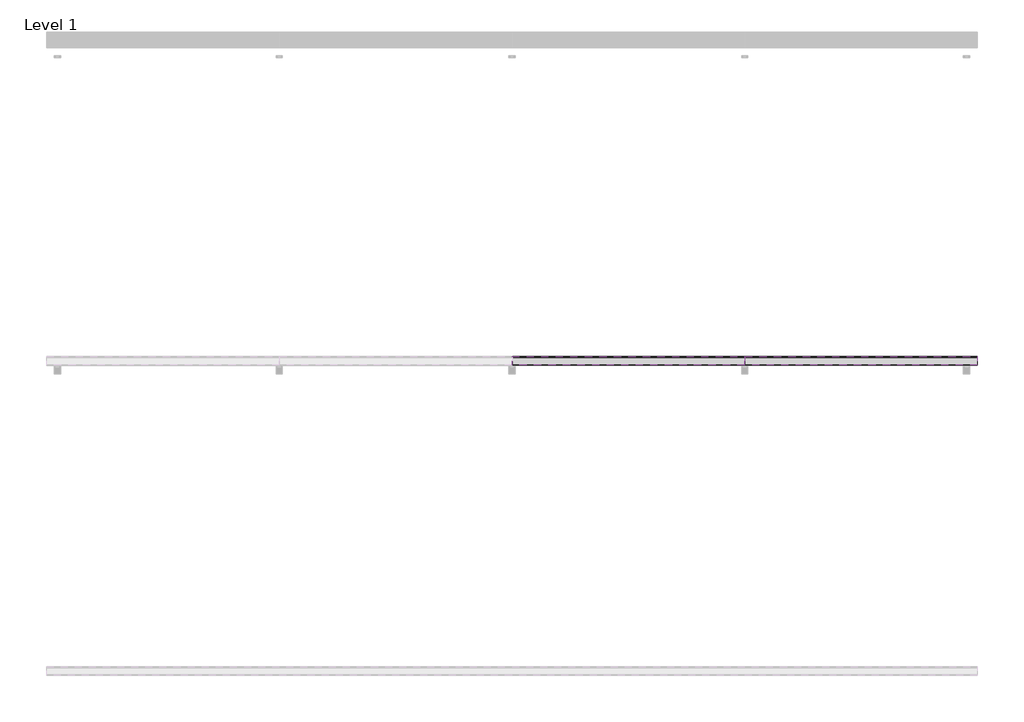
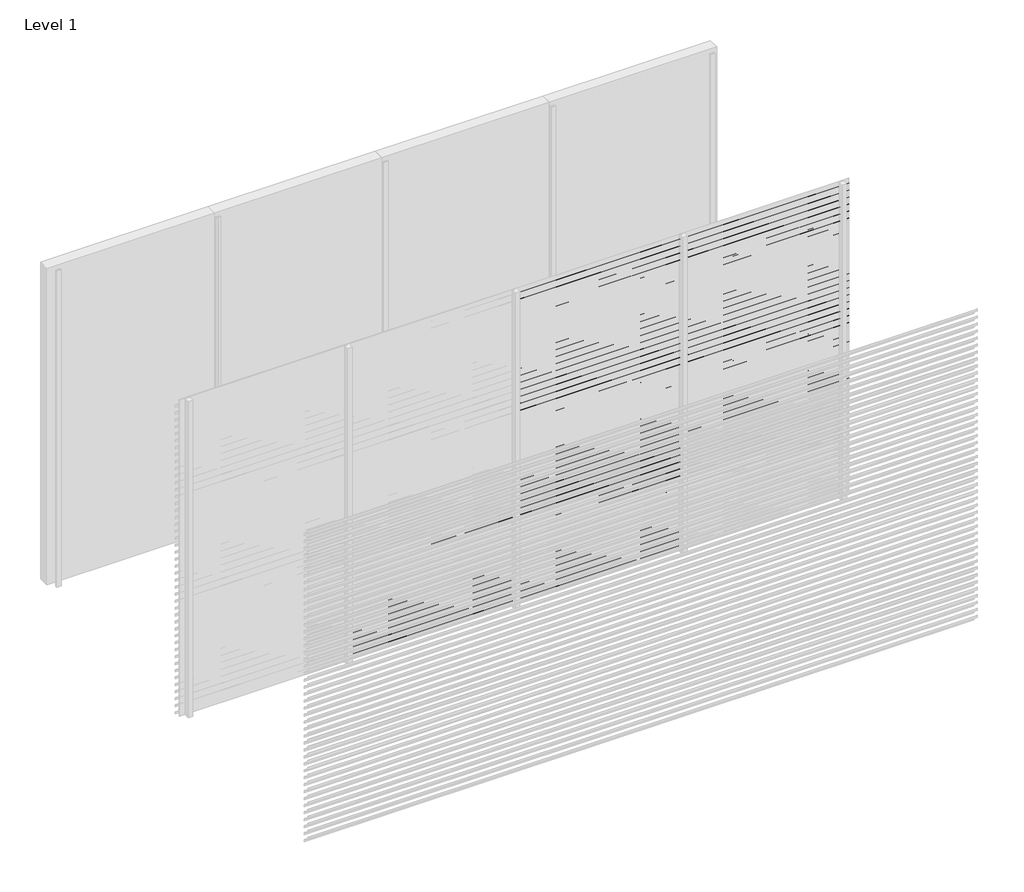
# One storey, part 12 of 25: 87 proxies.
"""IFC4 building model written with IfcOpenShell, lengths in millimetres."""

from ifc_helpers import new_model, si_unit, frame, origin, place, context, project, spatial, polyline, outline, extrude, element, save

model = new_model("IFC4")

# Units and contexts
model_context = context("Model", 3, world=origin())
ifc_project = project(units=[si_unit("LENGTHUNIT", "METRE", prefix="MILLI")], contexts=[model_context])

# Site, building, storey
site = spatial("IfcSite", under=ifc_project)
building = spatial("IfcBuilding", under=site)
storey = spatial("IfcBuildingStorey", under=building, Name="Level 1", Elevation=0.0)

# Proxies
placement = place(None, origin())
element("IfcBuildingElementProxy", 1, Name="Wall Sweeps", at=placement, inside=storey, context=model_context, shape_type="SweptSolid", body=[
    extrude(outline(polyline([(-29943.0, 801.5), (-29943.0, 781.5), (-29944.25, 782.2216933), (-29944.25, 800.7872415), (-29998.0, 838.3158044), (-29998.0, 858.0), (-29996.75, 858.0), (-29996.75, 839.0285629), (-29943.0, 801.5)])), frame((1500.0, 0.0, 0.0), z_axis=(1.0, 0.0, 0.0), x_axis=(0.0, 1.0, 0.0)), (0.0, 0.0, 1.0), 1500.0),
])
element("IfcBuildingElementProxy", 2, Name="Wall Sweeps", at=placement, inside=storey, context=model_context, shape_type="SweptSolid", body=[
    extrude(outline(polyline([(-29943.0, 735.5), (-29943.0, 715.5), (-29944.25, 716.2216933), (-29944.25, 734.7872415), (-29998.0, 772.3158044), (-29998.0, 792.0), (-29996.75, 792.0), (-29996.75, 773.0285629), (-29943.0, 735.5)])), frame((1500.0, 0.0, 0.0), z_axis=(1.0, 0.0, 0.0), x_axis=(0.0, 1.0, 0.0)), (0.0, 0.0, 1.0), 1500.0),
])
element("IfcBuildingElementProxy", 3, Name="Wall Sweeps", at=placement, inside=storey, context=model_context, shape_type="SweptSolid", body=[
    extrude(outline(polyline([(-29943.0, 669.5), (-29943.0, 649.5), (-29944.25, 650.2216933), (-29944.25, 668.7872415), (-29998.0, 706.3158044), (-29998.0, 726.0), (-29996.75, 726.0), (-29996.75, 707.0285629), (-29943.0, 669.5)])), frame((1500.0, 0.0, 0.0), z_axis=(1.0, 0.0, 0.0), x_axis=(0.0, 1.0, 0.0)), (0.0, 0.0, 1.0), 1500.0),
])
element("IfcBuildingElementProxy", 4, Name="Wall Sweeps", at=placement, inside=storey, context=model_context, shape_type="SweptSolid", body=[
    extrude(outline(polyline([(-29943.0, 603.5), (-29943.0, 583.5), (-29944.25, 584.2216933), (-29944.25, 602.7872415), (-29998.0, 640.3158044), (-29998.0, 660.0), (-29996.75, 660.0), (-29996.75, 641.0285629), (-29943.0, 603.5)])), frame((1500.0, 0.0, 0.0), z_axis=(1.0, 0.0, 0.0), x_axis=(0.0, 1.0, 0.0)), (0.0, 0.0, 1.0), 1500.0),
])
element("IfcBuildingElementProxy", 5, Name="Wall Sweeps", at=placement, inside=storey, context=model_context, shape_type="SweptSolid", body=[
    extrude(outline(polyline([(-29943.0, 537.5), (-29943.0, 517.5), (-29944.25, 518.2216933), (-29944.25, 536.7872415), (-29998.0, 574.3158044), (-29998.0, 594.0), (-29996.75, 594.0), (-29996.75, 575.0285629), (-29943.0, 537.5)])), frame((1500.0, 0.0, 0.0), z_axis=(1.0, 0.0, 0.0), x_axis=(0.0, 1.0, 0.0)), (0.0, 0.0, 1.0), 1500.0),
])
element("IfcBuildingElementProxy", 6, Name="Wall Sweeps", at=placement, inside=storey, context=model_context, shape_type="SweptSolid", body=[
    extrude(outline(polyline([(-29943.0, 471.5), (-29943.0, 451.5), (-29944.25, 452.2216933), (-29944.25, 470.7872415), (-29998.0, 508.3158044), (-29998.0, 528.0), (-29996.75, 528.0), (-29996.75, 509.0285629), (-29943.0, 471.5)])), frame((1500.0, 0.0, 0.0), z_axis=(1.0, 0.0, 0.0), x_axis=(0.0, 1.0, 0.0)), (0.0, 0.0, 1.0), 1500.0),
])
element("IfcBuildingElementProxy", 7, Name="Wall Sweeps", at=placement, inside=storey, context=model_context, shape_type="SweptSolid", body=[
    extrude(outline(polyline([(-29943.0, 405.5), (-29943.0, 385.5), (-29944.25, 386.2216933), (-29944.25, 404.7872415), (-29998.0, 442.3158044), (-29998.0, 462.0), (-29996.75, 462.0), (-29996.75, 443.0285629), (-29943.0, 405.5)])), frame((1500.0, 0.0, 0.0), z_axis=(1.0, 0.0, 0.0), x_axis=(0.0, 1.0, 0.0)), (0.0, 0.0, 1.0), 1500.0),
])
element("IfcBuildingElementProxy", 8, Name="Wall Sweeps", at=placement, inside=storey, context=model_context, shape_type="SweptSolid", body=[
    extrude(outline(polyline([(-29943.0, 339.5), (-29943.0, 319.5), (-29944.25, 320.2216933), (-29944.25, 338.7872415), (-29998.0, 376.3158044), (-29998.0, 396.0), (-29996.75, 396.0), (-29996.75, 377.0285629), (-29943.0, 339.5)])), frame((1500.0, 0.0, 0.0), z_axis=(1.0, 0.0, 0.0), x_axis=(0.0, 1.0, 0.0)), (0.0, 0.0, 1.0), 1500.0),
])
element("IfcBuildingElementProxy", 9, Name="Wall Sweeps", at=placement, inside=storey, context=model_context, shape_type="SweptSolid", body=[
    extrude(outline(polyline([(-29943.0, 273.5), (-29943.0, 253.5), (-29944.25, 254.2216933), (-29944.25, 272.7872415), (-29998.0, 310.3158044), (-29998.0, 330.0), (-29996.75, 330.0), (-29996.75, 311.0285629), (-29943.0, 273.5)])), frame((1500.0, 0.0, 0.0), z_axis=(1.0, 0.0, 0.0), x_axis=(0.0, 1.0, 0.0)), (0.0, 0.0, 1.0), 1500.0),
])
element("IfcBuildingElementProxy", 10, Name="Wall Sweeps", at=placement, inside=storey, context=model_context, shape_type="SweptSolid", body=[
    extrude(outline(polyline([(-29943.0, 207.5), (-29943.0, 187.5), (-29944.25, 188.2216933), (-29944.25, 206.7872415), (-29998.0, 244.3158044), (-29998.0, 264.0), (-29996.75, 264.0), (-29996.75, 245.0285629), (-29943.0, 207.5)])), frame((1500.0, 0.0, 0.0), z_axis=(1.0, 0.0, 0.0), x_axis=(0.0, 1.0, 0.0)), (0.0, 0.0, 1.0), 1500.0),
])
element("IfcBuildingElementProxy", 11, Name="Wall Sweeps", at=placement, inside=storey, context=model_context, shape_type="SweptSolid", body=[
    extrude(outline(polyline([(-29943.0, 141.5), (-29943.0, 121.5), (-29944.25, 122.2216933), (-29944.25, 140.7872415), (-29998.0, 178.3158044), (-29998.0, 198.0), (-29996.75, 198.0), (-29996.75, 179.0285629), (-29943.0, 141.5)])), frame((1500.0, 0.0, 0.0), z_axis=(1.0, 0.0, 0.0), x_axis=(0.0, 1.0, 0.0)), (0.0, 0.0, 1.0), 1500.0),
])
element("IfcBuildingElementProxy", 12, Name="Wall Sweeps", at=placement, inside=storey, context=model_context, shape_type="SweptSolid", body=[
    extrude(outline(polyline([(-29943.0, 75.5), (-29943.0, 55.5), (-29944.25, 56.2216933), (-29944.25, 74.7872415), (-29998.0, 112.3158044), (-29998.0, 132.0), (-29996.75, 132.0), (-29996.75, 113.0285629), (-29943.0, 75.5)])), frame((1500.0, 0.0, 0.0), z_axis=(1.0, 0.0, 0.0), x_axis=(0.0, 1.0, 0.0)), (0.0, 0.0, 1.0), 1500.0),
])
element("IfcBuildingElementProxy", 13, Name="Wall Sweeps", at=placement, inside=storey, context=model_context, shape_type="SweptSolid", body=[
    extrude(outline(polyline([(-29943.0, 9.5), (-29943.0, -10.5), (-29944.25, -9.7783067), (-29944.25, 8.7872415), (-29998.0, 46.3158044), (-29998.0, 66.0), (-29996.75, 66.0), (-29996.75, 47.0285629), (-29943.0, 9.5)])), frame((1500.0, 0.0, 0.0), z_axis=(1.0, 0.0, 0.0), x_axis=(0.0, 1.0, 0.0)), (0.0, 0.0, 1.0), 1500.0),
])
element("IfcBuildingElementProxy", 14, Name="Wall Sweeps", at=placement, inside=storey, context=model_context, shape_type="SweptSolid", body=[
    extrude(outline(polyline([(-29943.0, 2913.5), (-29943.0, 2893.5), (-29944.25, 2894.2216933), (-29944.25, 2912.7872415), (-29998.0, 2950.3158044), (-29998.0, 2970.0), (-29996.75, 2970.0), (-29996.75, 2951.0285629), (-29943.0, 2913.5)])), frame((3000.0, 0.0, 0.0), z_axis=(1.0, 0.0, 0.0), x_axis=(0.0, 1.0, 0.0)), (0.0, 0.0, 1.0), 1500.0),
])
element("IfcBuildingElementProxy", 15, Name="Wall Sweeps", at=placement, inside=storey, context=model_context, shape_type="SweptSolid", body=[
    extrude(outline(polyline([(-29943.0, 2847.5), (-29943.0, 2827.5), (-29944.25, 2828.2216933), (-29944.25, 2846.7872415), (-29998.0, 2884.3158044), (-29998.0, 2904.0), (-29996.75, 2904.0), (-29996.75, 2885.0285629), (-29943.0, 2847.5)])), frame((3000.0, 0.0, 0.0), z_axis=(1.0, 0.0, 0.0), x_axis=(0.0, 1.0, 0.0)), (0.0, 0.0, 1.0), 1500.0),
])
element("IfcBuildingElementProxy", 16, Name="Wall Sweeps", at=placement, inside=storey, context=model_context, shape_type="SweptSolid", body=[
    extrude(outline(polyline([(-29943.0, 2781.5), (-29943.0, 2761.5), (-29944.25, 2762.2216933), (-29944.25, 2780.7872415), (-29998.0, 2818.3158044), (-29998.0, 2838.0), (-29996.75, 2838.0), (-29996.75, 2819.0285629), (-29943.0, 2781.5)])), frame((3000.0, 0.0, 0.0), z_axis=(1.0, 0.0, 0.0), x_axis=(0.0, 1.0, 0.0)), (0.0, 0.0, 1.0), 1500.0),
])
element("IfcBuildingElementProxy", 17, Name="Wall Sweeps", at=placement, inside=storey, context=model_context, shape_type="SweptSolid", body=[
    extrude(outline(polyline([(-29943.0, 2715.5), (-29943.0, 2695.5), (-29944.25, 2696.2216933), (-29944.25, 2714.7872415), (-29998.0, 2752.3158044), (-29998.0, 2772.0), (-29996.75, 2772.0), (-29996.75, 2753.0285629), (-29943.0, 2715.5)])), frame((3000.0, 0.0, 0.0), z_axis=(1.0, 0.0, 0.0), x_axis=(0.0, 1.0, 0.0)), (0.0, 0.0, 1.0), 1500.0),
])
element("IfcBuildingElementProxy", 18, Name="Wall Sweeps", at=placement, inside=storey, context=model_context, shape_type="SweptSolid", body=[
    extrude(outline(polyline([(-29943.0, 2649.5), (-29943.0, 2629.5), (-29944.25, 2630.2216933), (-29944.25, 2648.7872415), (-29998.0, 2686.3158044), (-29998.0, 2706.0), (-29996.75, 2706.0), (-29996.75, 2687.0285629), (-29943.0, 2649.5)])), frame((3000.0, 0.0, 0.0), z_axis=(1.0, 0.0, 0.0), x_axis=(0.0, 1.0, 0.0)), (0.0, 0.0, 1.0), 1500.0),
])
element("IfcBuildingElementProxy", 19, Name="Wall Sweeps", at=placement, inside=storey, context=model_context, shape_type="SweptSolid", body=[
    extrude(outline(polyline([(-29943.0, 2583.5), (-29943.0, 2563.5), (-29944.25, 2564.2216933), (-29944.25, 2582.7872415), (-29998.0, 2620.3158044), (-29998.0, 2640.0), (-29996.75, 2640.0), (-29996.75, 2621.0285629), (-29943.0, 2583.5)])), frame((3000.0, 0.0, 0.0), z_axis=(1.0, 0.0, 0.0), x_axis=(0.0, 1.0, 0.0)), (0.0, 0.0, 1.0), 1500.0),
])
element("IfcBuildingElementProxy", 20, Name="Wall Sweeps", at=placement, inside=storey, context=model_context, shape_type="SweptSolid", body=[
    extrude(outline(polyline([(-29943.0, 2517.5), (-29943.0, 2497.5), (-29944.25, 2498.2216933), (-29944.25, 2516.7872415), (-29998.0, 2554.3158044), (-29998.0, 2574.0), (-29996.75, 2574.0), (-29996.75, 2555.0285629), (-29943.0, 2517.5)])), frame((3000.0, 0.0, 0.0), z_axis=(1.0, 0.0, 0.0), x_axis=(0.0, 1.0, 0.0)), (0.0, 0.0, 1.0), 1500.0),
])
element("IfcBuildingElementProxy", 21, Name="Wall Sweeps", at=placement, inside=storey, context=model_context, shape_type="SweptSolid", body=[
    extrude(outline(polyline([(-29943.0, 2451.5), (-29943.0, 2431.5), (-29944.25, 2432.2216933), (-29944.25, 2450.7872415), (-29998.0, 2488.3158044), (-29998.0, 2508.0), (-29996.75, 2508.0), (-29996.75, 2489.0285629), (-29943.0, 2451.5)])), frame((3000.0, 0.0, 0.0), z_axis=(1.0, 0.0, 0.0), x_axis=(0.0, 1.0, 0.0)), (0.0, 0.0, 1.0), 1500.0),
])
element("IfcBuildingElementProxy", 22, Name="Wall Sweeps", at=placement, inside=storey, context=model_context, shape_type="SweptSolid", body=[
    extrude(outline(polyline([(-29943.0, 2385.5), (-29943.0, 2365.5), (-29944.25, 2366.2216933), (-29944.25, 2384.7872415), (-29998.0, 2422.3158044), (-29998.0, 2442.0), (-29996.75, 2442.0), (-29996.75, 2423.0285629), (-29943.0, 2385.5)])), frame((3000.0, 0.0, 0.0), z_axis=(1.0, 0.0, 0.0), x_axis=(0.0, 1.0, 0.0)), (0.0, 0.0, 1.0), 1500.0),
])
element("IfcBuildingElementProxy", 23, Name="Wall Sweeps", at=placement, inside=storey, context=model_context, shape_type="SweptSolid", body=[
    extrude(outline(polyline([(-29943.0, 2319.5), (-29943.0, 2299.5), (-29944.25, 2300.2216933), (-29944.25, 2318.7872415), (-29998.0, 2356.3158044), (-29998.0, 2376.0), (-29996.75, 2376.0), (-29996.75, 2357.0285629), (-29943.0, 2319.5)])), frame((3000.0, 0.0, 0.0), z_axis=(1.0, 0.0, 0.0), x_axis=(0.0, 1.0, 0.0)), (0.0, 0.0, 1.0), 1500.0),
])
element("IfcBuildingElementProxy", 24, Name="Wall Sweeps", at=placement, inside=storey, context=model_context, shape_type="SweptSolid", body=[
    extrude(outline(polyline([(-29943.0, 2253.5), (-29943.0, 2233.5), (-29944.25, 2234.2216933), (-29944.25, 2252.7872415), (-29998.0, 2290.3158044), (-29998.0, 2310.0), (-29996.75, 2310.0), (-29996.75, 2291.0285629), (-29943.0, 2253.5)])), frame((3000.0, 0.0, 0.0), z_axis=(1.0, 0.0, 0.0), x_axis=(0.0, 1.0, 0.0)), (0.0, 0.0, 1.0), 1500.0),
])
element("IfcBuildingElementProxy", 25, Name="Wall Sweeps", at=placement, inside=storey, context=model_context, shape_type="SweptSolid", body=[
    extrude(outline(polyline([(-29943.0, 2187.5), (-29943.0, 2167.5), (-29944.25, 2168.2216933), (-29944.25, 2186.7872415), (-29998.0, 2224.3158044), (-29998.0, 2244.0), (-29996.75, 2244.0), (-29996.75, 2225.0285629), (-29943.0, 2187.5)])), frame((3000.0, 0.0, 0.0), z_axis=(1.0, 0.0, 0.0), x_axis=(0.0, 1.0, 0.0)), (0.0, 0.0, 1.0), 1500.0),
])
element("IfcBuildingElementProxy", 26, Name="Wall Sweeps", at=placement, inside=storey, context=model_context, shape_type="SweptSolid", body=[
    extrude(outline(polyline([(-29943.0, 2121.5), (-29943.0, 2101.5), (-29944.25, 2102.2216933), (-29944.25, 2120.7872415), (-29998.0, 2158.3158044), (-29998.0, 2178.0), (-29996.75, 2178.0), (-29996.75, 2159.0285629), (-29943.0, 2121.5)])), frame((3000.0, 0.0, 0.0), z_axis=(1.0, 0.0, 0.0), x_axis=(0.0, 1.0, 0.0)), (0.0, 0.0, 1.0), 1500.0),
])
element("IfcBuildingElementProxy", 27, Name="Wall Sweeps", at=placement, inside=storey, context=model_context, shape_type="SweptSolid", body=[
    extrude(outline(polyline([(-29943.0, 2055.5), (-29943.0, 2035.5), (-29944.25, 2036.2216933), (-29944.25, 2054.7872415), (-29998.0, 2092.3158044), (-29998.0, 2112.0), (-29996.75, 2112.0), (-29996.75, 2093.0285629), (-29943.0, 2055.5)])), frame((3000.0, 0.0, 0.0), z_axis=(1.0, 0.0, 0.0), x_axis=(0.0, 1.0, 0.0)), (0.0, 0.0, 1.0), 1500.0),
])
element("IfcBuildingElementProxy", 28, Name="Wall Sweeps", at=placement, inside=storey, context=model_context, shape_type="SweptSolid", body=[
    extrude(outline(polyline([(-29943.0, 1989.5), (-29943.0, 1969.5), (-29944.25, 1970.2216933), (-29944.25, 1988.7872415), (-29998.0, 2026.3158044), (-29998.0, 2046.0), (-29996.75, 2046.0), (-29996.75, 2027.0285629), (-29943.0, 1989.5)])), frame((3000.0, 0.0, 0.0), z_axis=(1.0, 0.0, 0.0), x_axis=(0.0, 1.0, 0.0)), (0.0, 0.0, 1.0), 1500.0),
])
element("IfcBuildingElementProxy", 29, Name="Wall Sweeps", at=placement, inside=storey, context=model_context, shape_type="SweptSolid", body=[
    extrude(outline(polyline([(-29943.0, 1923.5), (-29943.0, 1903.5), (-29944.25, 1904.2216933), (-29944.25, 1922.7872415), (-29998.0, 1960.3158044), (-29998.0, 1980.0), (-29996.75, 1980.0), (-29996.75, 1961.0285629), (-29943.0, 1923.5)])), frame((3000.0, 0.0, 0.0), z_axis=(1.0, 0.0, 0.0), x_axis=(0.0, 1.0, 0.0)), (0.0, 0.0, 1.0), 1500.0),
])
element("IfcBuildingElementProxy", 30, Name="Wall Sweeps", at=placement, inside=storey, context=model_context, shape_type="SweptSolid", body=[
    extrude(outline(polyline([(-29943.0, 1857.5), (-29943.0, 1837.5), (-29944.25, 1838.2216933), (-29944.25, 1856.7872415), (-29998.0, 1894.3158044), (-29998.0, 1914.0), (-29996.75, 1914.0), (-29996.75, 1895.0285629), (-29943.0, 1857.5)])), frame((3000.0, 0.0, 0.0), z_axis=(1.0, 0.0, 0.0), x_axis=(0.0, 1.0, 0.0)), (0.0, 0.0, 1.0), 1500.0),
])
element("IfcBuildingElementProxy", 31, Name="Wall Sweeps", at=placement, inside=storey, context=model_context, shape_type="SweptSolid", body=[
    extrude(outline(polyline([(-29943.0, 1791.5), (-29943.0, 1771.5), (-29944.25, 1772.2216933), (-29944.25, 1790.7872415), (-29998.0, 1828.3158044), (-29998.0, 1848.0), (-29996.75, 1848.0), (-29996.75, 1829.0285629), (-29943.0, 1791.5)])), frame((3000.0, 0.0, 0.0), z_axis=(1.0, 0.0, 0.0), x_axis=(0.0, 1.0, 0.0)), (0.0, 0.0, 1.0), 1500.0),
])
element("IfcBuildingElementProxy", 32, Name="Wall Sweeps", at=placement, inside=storey, context=model_context, shape_type="SweptSolid", body=[
    extrude(outline(polyline([(-29943.0, 1725.5), (-29943.0, 1705.5), (-29944.25, 1706.2216933), (-29944.25, 1724.7872415), (-29998.0, 1762.3158044), (-29998.0, 1782.0), (-29996.75, 1782.0), (-29996.75, 1763.0285629), (-29943.0, 1725.5)])), frame((3000.0, 0.0, 0.0), z_axis=(1.0, 0.0, 0.0), x_axis=(0.0, 1.0, 0.0)), (0.0, 0.0, 1.0), 1500.0),
])
element("IfcBuildingElementProxy", 33, Name="Wall Sweeps", at=placement, inside=storey, context=model_context, shape_type="SweptSolid", body=[
    extrude(outline(polyline([(-29943.0, 1659.5), (-29943.0, 1639.5), (-29944.25, 1640.2216933), (-29944.25, 1658.7872415), (-29998.0, 1696.3158044), (-29998.0, 1716.0), (-29996.75, 1716.0), (-29996.75, 1697.0285629), (-29943.0, 1659.5)])), frame((3000.0, 0.0, 0.0), z_axis=(1.0, 0.0, 0.0), x_axis=(0.0, 1.0, 0.0)), (0.0, 0.0, 1.0), 1500.0),
])
element("IfcBuildingElementProxy", 34, Name="Wall Sweeps", at=placement, inside=storey, context=model_context, shape_type="SweptSolid", body=[
    extrude(outline(polyline([(-29943.0, 1593.5), (-29943.0, 1573.5), (-29944.25, 1574.2216933), (-29944.25, 1592.7872415), (-29998.0, 1630.3158044), (-29998.0, 1650.0), (-29996.75, 1650.0), (-29996.75, 1631.0285629), (-29943.0, 1593.5)])), frame((3000.0, 0.0, 0.0), z_axis=(1.0, 0.0, 0.0), x_axis=(0.0, 1.0, 0.0)), (0.0, 0.0, 1.0), 1500.0),
])
element("IfcBuildingElementProxy", 35, Name="Wall Sweeps", at=placement, inside=storey, context=model_context, shape_type="SweptSolid", body=[
    extrude(outline(polyline([(-29943.0, 1527.5), (-29943.0, 1507.5), (-29944.25, 1508.2216933), (-29944.25, 1526.7872415), (-29998.0, 1564.3158044), (-29998.0, 1584.0), (-29996.75, 1584.0), (-29996.75, 1565.0285629), (-29943.0, 1527.5)])), frame((3000.0, 0.0, 0.0), z_axis=(1.0, 0.0, 0.0), x_axis=(0.0, 1.0, 0.0)), (0.0, 0.0, 1.0), 1500.0),
])
element("IfcBuildingElementProxy", 36, Name="Wall Sweeps", at=placement, inside=storey, context=model_context, shape_type="SweptSolid", body=[
    extrude(outline(polyline([(-29943.0, 1461.5), (-29943.0, 1441.5), (-29944.25, 1442.2216933), (-29944.25, 1460.7872415), (-29998.0, 1498.3158044), (-29998.0, 1518.0), (-29996.75, 1518.0), (-29996.75, 1499.0285629), (-29943.0, 1461.5)])), frame((3000.0, 0.0, 0.0), z_axis=(1.0, 0.0, 0.0), x_axis=(0.0, 1.0, 0.0)), (0.0, 0.0, 1.0), 1500.0),
])
element("IfcBuildingElementProxy", 37, Name="Wall Sweeps", at=placement, inside=storey, context=model_context, shape_type="SweptSolid", body=[
    extrude(outline(polyline([(-29943.0, 1395.5), (-29943.0, 1375.5), (-29944.25, 1376.2216933), (-29944.25, 1394.7872415), (-29998.0, 1432.3158044), (-29998.0, 1452.0), (-29996.75, 1452.0), (-29996.75, 1433.0285629), (-29943.0, 1395.5)])), frame((3000.0, 0.0, 0.0), z_axis=(1.0, 0.0, 0.0), x_axis=(0.0, 1.0, 0.0)), (0.0, 0.0, 1.0), 1500.0),
])
element("IfcBuildingElementProxy", 38, Name="Wall Sweeps", at=placement, inside=storey, context=model_context, shape_type="SweptSolid", body=[
    extrude(outline(polyline([(-29943.0, 1329.5), (-29943.0, 1309.5), (-29944.25, 1310.2216933), (-29944.25, 1328.7872415), (-29998.0, 1366.3158044), (-29998.0, 1386.0), (-29996.75, 1386.0), (-29996.75, 1367.0285629), (-29943.0, 1329.5)])), frame((3000.0, 0.0, 0.0), z_axis=(1.0, 0.0, 0.0), x_axis=(0.0, 1.0, 0.0)), (0.0, 0.0, 1.0), 1500.0),
])
element("IfcBuildingElementProxy", 39, Name="Wall Sweeps", at=placement, inside=storey, context=model_context, shape_type="SweptSolid", body=[
    extrude(outline(polyline([(-29943.0, 1263.5), (-29943.0, 1243.5), (-29944.25, 1244.2216933), (-29944.25, 1262.7872415), (-29998.0, 1300.3158044), (-29998.0, 1320.0), (-29996.75, 1320.0), (-29996.75, 1301.0285629), (-29943.0, 1263.5)])), frame((3000.0, 0.0, 0.0), z_axis=(1.0, 0.0, 0.0), x_axis=(0.0, 1.0, 0.0)), (0.0, 0.0, 1.0), 1500.0),
])
element("IfcBuildingElementProxy", 40, Name="Wall Sweeps", at=placement, inside=storey, context=model_context, shape_type="SweptSolid", body=[
    extrude(outline(polyline([(-29943.0, 1197.5), (-29943.0, 1177.5), (-29944.25, 1178.2216933), (-29944.25, 1196.7872415), (-29998.0, 1234.3158044), (-29998.0, 1254.0), (-29996.75, 1254.0), (-29996.75, 1235.0285629), (-29943.0, 1197.5)])), frame((3000.0, 0.0, 0.0), z_axis=(1.0, 0.0, 0.0), x_axis=(0.0, 1.0, 0.0)), (0.0, 0.0, 1.0), 1500.0),
])
element("IfcBuildingElementProxy", 41, Name="Wall Sweeps", at=placement, inside=storey, context=model_context, shape_type="SweptSolid", body=[
    extrude(outline(polyline([(-29943.0, 1131.5), (-29943.0, 1111.5), (-29944.25, 1112.2216933), (-29944.25, 1130.7872415), (-29998.0, 1168.3158044), (-29998.0, 1188.0), (-29996.75, 1188.0), (-29996.75, 1169.0285629), (-29943.0, 1131.5)])), frame((3000.0, 0.0, 0.0), z_axis=(1.0, 0.0, 0.0), x_axis=(0.0, 1.0, 0.0)), (0.0, 0.0, 1.0), 1500.0),
])
element("IfcBuildingElementProxy", 42, Name="Wall Sweeps", at=placement, inside=storey, context=model_context, shape_type="SweptSolid", body=[
    extrude(outline(polyline([(-29943.0, 1065.5), (-29943.0, 1045.5), (-29944.25, 1046.2216933), (-29944.25, 1064.7872415), (-29998.0, 1102.3158044), (-29998.0, 1122.0), (-29996.75, 1122.0), (-29996.75, 1103.0285629), (-29943.0, 1065.5)])), frame((3000.0, 0.0, 0.0), z_axis=(1.0, 0.0, 0.0), x_axis=(0.0, 1.0, 0.0)), (0.0, 0.0, 1.0), 1500.0),
])
element("IfcBuildingElementProxy", 43, Name="Wall Sweeps", at=placement, inside=storey, context=model_context, shape_type="SweptSolid", body=[
    extrude(outline(polyline([(-29943.0, 999.5), (-29943.0, 979.5), (-29944.25, 980.2216933), (-29944.25, 998.7872415), (-29998.0, 1036.3158044), (-29998.0, 1056.0), (-29996.75, 1056.0), (-29996.75, 1037.0285629), (-29943.0, 999.5)])), frame((3000.0, 0.0, 0.0), z_axis=(1.0, 0.0, 0.0), x_axis=(0.0, 1.0, 0.0)), (0.0, 0.0, 1.0), 1500.0),
])
element("IfcBuildingElementProxy", 44, Name="Wall Sweeps", at=placement, inside=storey, context=model_context, shape_type="SweptSolid", body=[
    extrude(outline(polyline([(-29943.0, 933.5), (-29943.0, 913.5), (-29944.25, 914.2216933), (-29944.25, 932.7872415), (-29998.0, 970.3158044), (-29998.0, 990.0), (-29996.75, 990.0), (-29996.75, 971.0285629), (-29943.0, 933.5)])), frame((3000.0, 0.0, 0.0), z_axis=(1.0, 0.0, 0.0), x_axis=(0.0, 1.0, 0.0)), (0.0, 0.0, 1.0), 1500.0),
])
element("IfcBuildingElementProxy", 45, Name="Wall Sweeps", at=placement, inside=storey, context=model_context, shape_type="SweptSolid", body=[
    extrude(outline(polyline([(-29943.0, 867.5), (-29943.0, 847.5), (-29944.25, 848.2216933), (-29944.25, 866.7872415), (-29998.0, 904.3158044), (-29998.0, 924.0), (-29996.75, 924.0), (-29996.75, 905.0285629), (-29943.0, 867.5)])), frame((3000.0, 0.0, 0.0), z_axis=(1.0, 0.0, 0.0), x_axis=(0.0, 1.0, 0.0)), (0.0, 0.0, 1.0), 1500.0),
])
element("IfcBuildingElementProxy", 46, Name="Wall Sweeps", at=placement, inside=storey, context=model_context, shape_type="SweptSolid", body=[
    extrude(outline(polyline([(-29943.0, 801.5), (-29943.0, 781.5), (-29944.25, 782.2216933), (-29944.25, 800.7872415), (-29998.0, 838.3158044), (-29998.0, 858.0), (-29996.75, 858.0), (-29996.75, 839.0285629), (-29943.0, 801.5)])), frame((3000.0, 0.0, 0.0), z_axis=(1.0, 0.0, 0.0), x_axis=(0.0, 1.0, 0.0)), (0.0, 0.0, 1.0), 1500.0),
])
element("IfcBuildingElementProxy", 47, Name="Wall Sweeps", at=placement, inside=storey, context=model_context, shape_type="SweptSolid", body=[
    extrude(outline(polyline([(-29943.0, 735.5), (-29943.0, 715.5), (-29944.25, 716.2216933), (-29944.25, 734.7872415), (-29998.0, 772.3158044), (-29998.0, 792.0), (-29996.75, 792.0), (-29996.75, 773.0285629), (-29943.0, 735.5)])), frame((3000.0, 0.0, 0.0), z_axis=(1.0, 0.0, 0.0), x_axis=(0.0, 1.0, 0.0)), (0.0, 0.0, 1.0), 1500.0),
])
element("IfcBuildingElementProxy", 48, Name="Wall Sweeps", at=placement, inside=storey, context=model_context, shape_type="SweptSolid", body=[
    extrude(outline(polyline([(-29943.0, 669.5), (-29943.0, 649.5), (-29944.25, 650.2216933), (-29944.25, 668.7872415), (-29998.0, 706.3158044), (-29998.0, 726.0), (-29996.75, 726.0), (-29996.75, 707.0285629), (-29943.0, 669.5)])), frame((3000.0, 0.0, 0.0), z_axis=(1.0, 0.0, 0.0), x_axis=(0.0, 1.0, 0.0)), (0.0, 0.0, 1.0), 1500.0),
])
element("IfcBuildingElementProxy", 49, Name="Wall Sweeps", at=placement, inside=storey, context=model_context, shape_type="SweptSolid", body=[
    extrude(outline(polyline([(-29943.0, 603.5), (-29943.0, 583.5), (-29944.25, 584.2216933), (-29944.25, 602.7872415), (-29998.0, 640.3158044), (-29998.0, 660.0), (-29996.75, 660.0), (-29996.75, 641.0285629), (-29943.0, 603.5)])), frame((3000.0, 0.0, 0.0), z_axis=(1.0, 0.0, 0.0), x_axis=(0.0, 1.0, 0.0)), (0.0, 0.0, 1.0), 1500.0),
])
element("IfcBuildingElementProxy", 50, Name="Wall Sweeps", at=placement, inside=storey, context=model_context, shape_type="SweptSolid", body=[
    extrude(outline(polyline([(-29943.0, 537.5), (-29943.0, 517.5), (-29944.25, 518.2216933), (-29944.25, 536.7872415), (-29998.0, 574.3158044), (-29998.0, 594.0), (-29996.75, 594.0), (-29996.75, 575.0285629), (-29943.0, 537.5)])), frame((3000.0, 0.0, 0.0), z_axis=(1.0, 0.0, 0.0), x_axis=(0.0, 1.0, 0.0)), (0.0, 0.0, 1.0), 1500.0),
])
element("IfcBuildingElementProxy", 51, Name="Wall Sweeps", at=placement, inside=storey, context=model_context, shape_type="SweptSolid", body=[
    extrude(outline(polyline([(-29943.0, 471.5), (-29943.0, 451.5), (-29944.25, 452.2216933), (-29944.25, 470.7872415), (-29998.0, 508.3158044), (-29998.0, 528.0), (-29996.75, 528.0), (-29996.75, 509.0285629), (-29943.0, 471.5)])), frame((3000.0, 0.0, 0.0), z_axis=(1.0, 0.0, 0.0), x_axis=(0.0, 1.0, 0.0)), (0.0, 0.0, 1.0), 1500.0),
])
element("IfcBuildingElementProxy", 52, Name="Wall Sweeps", at=placement, inside=storey, context=model_context, shape_type="SweptSolid", body=[
    extrude(outline(polyline([(-29943.0, 405.5), (-29943.0, 385.5), (-29944.25, 386.2216933), (-29944.25, 404.7872415), (-29998.0, 442.3158044), (-29998.0, 462.0), (-29996.75, 462.0), (-29996.75, 443.0285629), (-29943.0, 405.5)])), frame((3000.0, 0.0, 0.0), z_axis=(1.0, 0.0, 0.0), x_axis=(0.0, 1.0, 0.0)), (0.0, 0.0, 1.0), 1500.0),
])
element("IfcBuildingElementProxy", 53, Name="Wall Sweeps", at=placement, inside=storey, context=model_context, shape_type="SweptSolid", body=[
    extrude(outline(polyline([(-29943.0, 339.5), (-29943.0, 319.5), (-29944.25, 320.2216933), (-29944.25, 338.7872415), (-29998.0, 376.3158044), (-29998.0, 396.0), (-29996.75, 396.0), (-29996.75, 377.0285629), (-29943.0, 339.5)])), frame((3000.0, 0.0, 0.0), z_axis=(1.0, 0.0, 0.0), x_axis=(0.0, 1.0, 0.0)), (0.0, 0.0, 1.0), 1500.0),
])
element("IfcBuildingElementProxy", 54, Name="Wall Sweeps", at=placement, inside=storey, context=model_context, shape_type="SweptSolid", body=[
    extrude(outline(polyline([(-29943.0, 273.5), (-29943.0, 253.5), (-29944.25, 254.2216933), (-29944.25, 272.7872415), (-29998.0, 310.3158044), (-29998.0, 330.0), (-29996.75, 330.0), (-29996.75, 311.0285629), (-29943.0, 273.5)])), frame((3000.0, 0.0, 0.0), z_axis=(1.0, 0.0, 0.0), x_axis=(0.0, 1.0, 0.0)), (0.0, 0.0, 1.0), 1500.0),
])
element("IfcBuildingElementProxy", 55, Name="Wall Sweeps", at=placement, inside=storey, context=model_context, shape_type="SweptSolid", body=[
    extrude(outline(polyline([(-29943.0, 207.5), (-29943.0, 187.5), (-29944.25, 188.2216933), (-29944.25, 206.7872415), (-29998.0, 244.3158044), (-29998.0, 264.0), (-29996.75, 264.0), (-29996.75, 245.0285629), (-29943.0, 207.5)])), frame((3000.0, 0.0, 0.0), z_axis=(1.0, 0.0, 0.0), x_axis=(0.0, 1.0, 0.0)), (0.0, 0.0, 1.0), 1500.0),
])
element("IfcBuildingElementProxy", 56, Name="Wall Sweeps", at=placement, inside=storey, context=model_context, shape_type="SweptSolid", body=[
    extrude(outline(polyline([(-29943.0, 141.5), (-29943.0, 121.5), (-29944.25, 122.2216933), (-29944.25, 140.7872415), (-29998.0, 178.3158044), (-29998.0, 198.0), (-29996.75, 198.0), (-29996.75, 179.0285629), (-29943.0, 141.5)])), frame((3000.0, 0.0, 0.0), z_axis=(1.0, 0.0, 0.0), x_axis=(0.0, 1.0, 0.0)), (0.0, 0.0, 1.0), 1500.0),
])
element("IfcBuildingElementProxy", 57, Name="Wall Sweeps", at=placement, inside=storey, context=model_context, shape_type="SweptSolid", body=[
    extrude(outline(polyline([(-29943.0, 75.5), (-29943.0, 55.5), (-29944.25, 56.2216933), (-29944.25, 74.7872415), (-29998.0, 112.3158044), (-29998.0, 132.0), (-29996.75, 132.0), (-29996.75, 113.0285629), (-29943.0, 75.5)])), frame((3000.0, 0.0, 0.0), z_axis=(1.0, 0.0, 0.0), x_axis=(0.0, 1.0, 0.0)), (0.0, 0.0, 1.0), 1500.0),
])
element("IfcBuildingElementProxy", 58, Name="Wall Sweeps", at=placement, inside=storey, context=model_context, shape_type="SweptSolid", body=[
    extrude(outline(polyline([(-29943.0, 9.5), (-29943.0, -10.5), (-29944.25, -9.7783067), (-29944.25, 8.7872415), (-29998.0, 46.3158044), (-29998.0, 66.0), (-29996.75, 66.0), (-29996.75, 47.0285629), (-29943.0, 9.5)])), frame((3000.0, 0.0, 0.0), z_axis=(1.0, 0.0, 0.0), x_axis=(0.0, 1.0, 0.0)), (0.0, 0.0, 1.0), 1500.0),
])
element("IfcBuildingElementProxy", 59, Name="Wall Sweeps", at=placement, inside=storey, context=model_context, shape_type="SweptSolid", body=[
    extrude(outline(polyline([(-29943.0, 2913.5), (-29943.0, 2893.5), (-29944.25, 2894.2216933), (-29944.25, 2912.7872415), (-29998.0, 2950.3158044), (-29998.0, 2970.0), (-29996.75, 2970.0), (-29996.75, 2951.0285629), (-29943.0, 2913.5)])), frame((4500.0, 0.0, 0.0), z_axis=(1.0, 0.0, 0.0), x_axis=(0.0, 1.0, 0.0)), (0.0, 0.0, 1.0), 1500.0),
])
element("IfcBuildingElementProxy", 60, Name="Wall Sweeps", at=placement, inside=storey, context=model_context, shape_type="SweptSolid", body=[
    extrude(outline(polyline([(-29943.0, 2847.5), (-29943.0, 2827.5), (-29944.25, 2828.2216933), (-29944.25, 2846.7872415), (-29998.0, 2884.3158044), (-29998.0, 2904.0), (-29996.75, 2904.0), (-29996.75, 2885.0285629), (-29943.0, 2847.5)])), frame((4500.0, 0.0, 0.0), z_axis=(1.0, 0.0, 0.0), x_axis=(0.0, 1.0, 0.0)), (0.0, 0.0, 1.0), 1500.0),
])
element("IfcBuildingElementProxy", 61, Name="Wall Sweeps", at=placement, inside=storey, context=model_context, shape_type="SweptSolid", body=[
    extrude(outline(polyline([(-29943.0, 2781.5), (-29943.0, 2761.5), (-29944.25, 2762.2216933), (-29944.25, 2780.7872415), (-29998.0, 2818.3158044), (-29998.0, 2838.0), (-29996.75, 2838.0), (-29996.75, 2819.0285629), (-29943.0, 2781.5)])), frame((4500.0, 0.0, 0.0), z_axis=(1.0, 0.0, 0.0), x_axis=(0.0, 1.0, 0.0)), (0.0, 0.0, 1.0), 1500.0),
])
element("IfcBuildingElementProxy", 62, Name="Wall Sweeps", at=placement, inside=storey, context=model_context, shape_type="SweptSolid", body=[
    extrude(outline(polyline([(-29943.0, 2715.5), (-29943.0, 2695.5), (-29944.25, 2696.2216933), (-29944.25, 2714.7872415), (-29998.0, 2752.3158044), (-29998.0, 2772.0), (-29996.75, 2772.0), (-29996.75, 2753.0285629), (-29943.0, 2715.5)])), frame((4500.0, 0.0, 0.0), z_axis=(1.0, 0.0, 0.0), x_axis=(0.0, 1.0, 0.0)), (0.0, 0.0, 1.0), 1500.0),
])
element("IfcBuildingElementProxy", 63, Name="Wall Sweeps", at=placement, inside=storey, context=model_context, shape_type="SweptSolid", body=[
    extrude(outline(polyline([(-29943.0, 2649.5), (-29943.0, 2629.5), (-29944.25, 2630.2216933), (-29944.25, 2648.7872415), (-29998.0, 2686.3158044), (-29998.0, 2706.0), (-29996.75, 2706.0), (-29996.75, 2687.0285629), (-29943.0, 2649.5)])), frame((4500.0, 0.0, 0.0), z_axis=(1.0, 0.0, 0.0), x_axis=(0.0, 1.0, 0.0)), (0.0, 0.0, 1.0), 1500.0),
])
element("IfcBuildingElementProxy", 64, Name="Wall Sweeps", at=placement, inside=storey, context=model_context, shape_type="SweptSolid", body=[
    extrude(outline(polyline([(-29943.0, 2583.5), (-29943.0, 2563.5), (-29944.25, 2564.2216933), (-29944.25, 2582.7872415), (-29998.0, 2620.3158044), (-29998.0, 2640.0), (-29996.75, 2640.0), (-29996.75, 2621.0285629), (-29943.0, 2583.5)])), frame((4500.0, 0.0, 0.0), z_axis=(1.0, 0.0, 0.0), x_axis=(0.0, 1.0, 0.0)), (0.0, 0.0, 1.0), 1500.0),
])
element("IfcBuildingElementProxy", 65, Name="Wall Sweeps", at=placement, inside=storey, context=model_context, shape_type="SweptSolid", body=[
    extrude(outline(polyline([(-29943.0, 2517.5), (-29943.0, 2497.5), (-29944.25, 2498.2216933), (-29944.25, 2516.7872415), (-29998.0, 2554.3158044), (-29998.0, 2574.0), (-29996.75, 2574.0), (-29996.75, 2555.0285629), (-29943.0, 2517.5)])), frame((4500.0, 0.0, 0.0), z_axis=(1.0, 0.0, 0.0), x_axis=(0.0, 1.0, 0.0)), (0.0, 0.0, 1.0), 1500.0),
])
element("IfcBuildingElementProxy", 66, Name="Wall Sweeps", at=placement, inside=storey, context=model_context, shape_type="SweptSolid", body=[
    extrude(outline(polyline([(-29943.0, 2451.5), (-29943.0, 2431.5), (-29944.25, 2432.2216933), (-29944.25, 2450.7872415), (-29998.0, 2488.3158044), (-29998.0, 2508.0), (-29996.75, 2508.0), (-29996.75, 2489.0285629), (-29943.0, 2451.5)])), frame((4500.0, 0.0, 0.0), z_axis=(1.0, 0.0, 0.0), x_axis=(0.0, 1.0, 0.0)), (0.0, 0.0, 1.0), 1500.0),
])
element("IfcBuildingElementProxy", 67, Name="Wall Sweeps", at=placement, inside=storey, context=model_context, shape_type="SweptSolid", body=[
    extrude(outline(polyline([(-29943.0, 2385.5), (-29943.0, 2365.5), (-29944.25, 2366.2216933), (-29944.25, 2384.7872415), (-29998.0, 2422.3158044), (-29998.0, 2442.0), (-29996.75, 2442.0), (-29996.75, 2423.0285629), (-29943.0, 2385.5)])), frame((4500.0, 0.0, 0.0), z_axis=(1.0, 0.0, 0.0), x_axis=(0.0, 1.0, 0.0)), (0.0, 0.0, 1.0), 1500.0),
])
element("IfcBuildingElementProxy", 68, Name="Wall Sweeps", at=placement, inside=storey, context=model_context, shape_type="SweptSolid", body=[
    extrude(outline(polyline([(-29943.0, 2319.5), (-29943.0, 2299.5), (-29944.25, 2300.2216933), (-29944.25, 2318.7872415), (-29998.0, 2356.3158044), (-29998.0, 2376.0), (-29996.75, 2376.0), (-29996.75, 2357.0285629), (-29943.0, 2319.5)])), frame((4500.0, 0.0, 0.0), z_axis=(1.0, 0.0, 0.0), x_axis=(0.0, 1.0, 0.0)), (0.0, 0.0, 1.0), 1500.0),
])
element("IfcBuildingElementProxy", 69, Name="Wall Sweeps", at=placement, inside=storey, context=model_context, shape_type="SweptSolid", body=[
    extrude(outline(polyline([(-29943.0, 2253.5), (-29943.0, 2233.5), (-29944.25, 2234.2216933), (-29944.25, 2252.7872415), (-29998.0, 2290.3158044), (-29998.0, 2310.0), (-29996.75, 2310.0), (-29996.75, 2291.0285629), (-29943.0, 2253.5)])), frame((4500.0, 0.0, 0.0), z_axis=(1.0, 0.0, 0.0), x_axis=(0.0, 1.0, 0.0)), (0.0, 0.0, 1.0), 1500.0),
])
element("IfcBuildingElementProxy", 70, Name="Wall Sweeps", at=placement, inside=storey, context=model_context, shape_type="SweptSolid", body=[
    extrude(outline(polyline([(-29943.0, 2187.5), (-29943.0, 2167.5), (-29944.25, 2168.2216933), (-29944.25, 2186.7872415), (-29998.0, 2224.3158044), (-29998.0, 2244.0), (-29996.75, 2244.0), (-29996.75, 2225.0285629), (-29943.0, 2187.5)])), frame((4500.0, 0.0, 0.0), z_axis=(1.0, 0.0, 0.0), x_axis=(0.0, 1.0, 0.0)), (0.0, 0.0, 1.0), 1500.0),
])
element("IfcBuildingElementProxy", 71, Name="Wall Sweeps", at=placement, inside=storey, context=model_context, shape_type="SweptSolid", body=[
    extrude(outline(polyline([(-29943.0, 2121.5), (-29943.0, 2101.5), (-29944.25, 2102.2216933), (-29944.25, 2120.7872415), (-29998.0, 2158.3158044), (-29998.0, 2178.0), (-29996.75, 2178.0), (-29996.75, 2159.0285629), (-29943.0, 2121.5)])), frame((4500.0, 0.0, 0.0), z_axis=(1.0, 0.0, 0.0), x_axis=(0.0, 1.0, 0.0)), (0.0, 0.0, 1.0), 1500.0),
])
element("IfcBuildingElementProxy", 72, Name="Wall Sweeps", at=placement, inside=storey, context=model_context, shape_type="SweptSolid", body=[
    extrude(outline(polyline([(-29943.0, 2055.5), (-29943.0, 2035.5), (-29944.25, 2036.2216933), (-29944.25, 2054.7872415), (-29998.0, 2092.3158044), (-29998.0, 2112.0), (-29996.75, 2112.0), (-29996.75, 2093.0285629), (-29943.0, 2055.5)])), frame((4500.0, 0.0, 0.0), z_axis=(1.0, 0.0, 0.0), x_axis=(0.0, 1.0, 0.0)), (0.0, 0.0, 1.0), 1500.0),
])
element("IfcBuildingElementProxy", 73, Name="Wall Sweeps", at=placement, inside=storey, context=model_context, shape_type="SweptSolid", body=[
    extrude(outline(polyline([(-29943.0, 1989.5), (-29943.0, 1969.5), (-29944.25, 1970.2216933), (-29944.25, 1988.7872415), (-29998.0, 2026.3158044), (-29998.0, 2046.0), (-29996.75, 2046.0), (-29996.75, 2027.0285629), (-29943.0, 1989.5)])), frame((4500.0, 0.0, 0.0), z_axis=(1.0, 0.0, 0.0), x_axis=(0.0, 1.0, 0.0)), (0.0, 0.0, 1.0), 1500.0),
])
element("IfcBuildingElementProxy", 74, Name="Wall Sweeps", at=placement, inside=storey, context=model_context, shape_type="SweptSolid", body=[
    extrude(outline(polyline([(-29943.0, 1923.5), (-29943.0, 1903.5), (-29944.25, 1904.2216933), (-29944.25, 1922.7872415), (-29998.0, 1960.3158044), (-29998.0, 1980.0), (-29996.75, 1980.0), (-29996.75, 1961.0285629), (-29943.0, 1923.5)])), frame((4500.0, 0.0, 0.0), z_axis=(1.0, 0.0, 0.0), x_axis=(0.0, 1.0, 0.0)), (0.0, 0.0, 1.0), 1500.0),
])
element("IfcBuildingElementProxy", 75, Name="Wall Sweeps", at=placement, inside=storey, context=model_context, shape_type="SweptSolid", body=[
    extrude(outline(polyline([(-29943.0, 1857.5), (-29943.0, 1837.5), (-29944.25, 1838.2216933), (-29944.25, 1856.7872415), (-29998.0, 1894.3158044), (-29998.0, 1914.0), (-29996.75, 1914.0), (-29996.75, 1895.0285629), (-29943.0, 1857.5)])), frame((4500.0, 0.0, 0.0), z_axis=(1.0, 0.0, 0.0), x_axis=(0.0, 1.0, 0.0)), (0.0, 0.0, 1.0), 1500.0),
])
element("IfcBuildingElementProxy", 76, Name="Wall Sweeps", at=placement, inside=storey, context=model_context, shape_type="SweptSolid", body=[
    extrude(outline(polyline([(-29943.0, 1791.5), (-29943.0, 1771.5), (-29944.25, 1772.2216933), (-29944.25, 1790.7872415), (-29998.0, 1828.3158044), (-29998.0, 1848.0), (-29996.75, 1848.0), (-29996.75, 1829.0285629), (-29943.0, 1791.5)])), frame((4500.0, 0.0, 0.0), z_axis=(1.0, 0.0, 0.0), x_axis=(0.0, 1.0, 0.0)), (0.0, 0.0, 1.0), 1500.0),
])
element("IfcBuildingElementProxy", 77, Name="Wall Sweeps", at=placement, inside=storey, context=model_context, shape_type="SweptSolid", body=[
    extrude(outline(polyline([(-29943.0, 1725.5), (-29943.0, 1705.5), (-29944.25, 1706.2216933), (-29944.25, 1724.7872415), (-29998.0, 1762.3158044), (-29998.0, 1782.0), (-29996.75, 1782.0), (-29996.75, 1763.0285629), (-29943.0, 1725.5)])), frame((4500.0, 0.0, 0.0), z_axis=(1.0, 0.0, 0.0), x_axis=(0.0, 1.0, 0.0)), (0.0, 0.0, 1.0), 1500.0),
])
element("IfcBuildingElementProxy", 78, Name="Wall Sweeps", at=placement, inside=storey, context=model_context, shape_type="SweptSolid", body=[
    extrude(outline(polyline([(-29943.0, 1659.5), (-29943.0, 1639.5), (-29944.25, 1640.2216933), (-29944.25, 1658.7872415), (-29998.0, 1696.3158044), (-29998.0, 1716.0), (-29996.75, 1716.0), (-29996.75, 1697.0285629), (-29943.0, 1659.5)])), frame((4500.0, 0.0, 0.0), z_axis=(1.0, 0.0, 0.0), x_axis=(0.0, 1.0, 0.0)), (0.0, 0.0, 1.0), 1500.0),
])
element("IfcBuildingElementProxy", 79, Name="Wall Sweeps", at=placement, inside=storey, context=model_context, shape_type="SweptSolid", body=[
    extrude(outline(polyline([(-29943.0, 1593.5), (-29943.0, 1573.5), (-29944.25, 1574.2216933), (-29944.25, 1592.7872415), (-29998.0, 1630.3158044), (-29998.0, 1650.0), (-29996.75, 1650.0), (-29996.75, 1631.0285629), (-29943.0, 1593.5)])), frame((4500.0, 0.0, 0.0), z_axis=(1.0, 0.0, 0.0), x_axis=(0.0, 1.0, 0.0)), (0.0, 0.0, 1.0), 1500.0),
])
element("IfcBuildingElementProxy", 80, Name="Wall Sweeps", at=placement, inside=storey, context=model_context, shape_type="SweptSolid", body=[
    extrude(outline(polyline([(-29943.0, 1527.5), (-29943.0, 1507.5), (-29944.25, 1508.2216933), (-29944.25, 1526.7872415), (-29998.0, 1564.3158044), (-29998.0, 1584.0), (-29996.75, 1584.0), (-29996.75, 1565.0285629), (-29943.0, 1527.5)])), frame((4500.0, 0.0, 0.0), z_axis=(1.0, 0.0, 0.0), x_axis=(0.0, 1.0, 0.0)), (0.0, 0.0, 1.0), 1500.0),
])
element("IfcBuildingElementProxy", 81, Name="Wall Sweeps", at=placement, inside=storey, context=model_context, shape_type="SweptSolid", body=[
    extrude(outline(polyline([(-29943.0, 1461.5), (-29943.0, 1441.5), (-29944.25, 1442.2216933), (-29944.25, 1460.7872415), (-29998.0, 1498.3158044), (-29998.0, 1518.0), (-29996.75, 1518.0), (-29996.75, 1499.0285629), (-29943.0, 1461.5)])), frame((4500.0, 0.0, 0.0), z_axis=(1.0, 0.0, 0.0), x_axis=(0.0, 1.0, 0.0)), (0.0, 0.0, 1.0), 1500.0),
])
element("IfcBuildingElementProxy", 82, Name="Wall Sweeps", at=placement, inside=storey, context=model_context, shape_type="SweptSolid", body=[
    extrude(outline(polyline([(-29943.0, 1395.5), (-29943.0, 1375.5), (-29944.25, 1376.2216933), (-29944.25, 1394.7872415), (-29998.0, 1432.3158044), (-29998.0, 1452.0), (-29996.75, 1452.0), (-29996.75, 1433.0285629), (-29943.0, 1395.5)])), frame((4500.0, 0.0, 0.0), z_axis=(1.0, 0.0, 0.0), x_axis=(0.0, 1.0, 0.0)), (0.0, 0.0, 1.0), 1500.0),
])
element("IfcBuildingElementProxy", 83, Name="Wall Sweeps", at=placement, inside=storey, context=model_context, shape_type="SweptSolid", body=[
    extrude(outline(polyline([(-29943.0, 1329.5), (-29943.0, 1309.5), (-29944.25, 1310.2216933), (-29944.25, 1328.7872415), (-29998.0, 1366.3158044), (-29998.0, 1386.0), (-29996.75, 1386.0), (-29996.75, 1367.0285629), (-29943.0, 1329.5)])), frame((4500.0, 0.0, 0.0), z_axis=(1.0, 0.0, 0.0), x_axis=(0.0, 1.0, 0.0)), (0.0, 0.0, 1.0), 1500.0),
])
element("IfcBuildingElementProxy", 84, Name="Wall Sweeps", at=placement, inside=storey, context=model_context, shape_type="SweptSolid", body=[
    extrude(outline(polyline([(-29943.0, 1263.5), (-29943.0, 1243.5), (-29944.25, 1244.2216933), (-29944.25, 1262.7872415), (-29998.0, 1300.3158044), (-29998.0, 1320.0), (-29996.75, 1320.0), (-29996.75, 1301.0285629), (-29943.0, 1263.5)])), frame((4500.0, 0.0, 0.0), z_axis=(1.0, 0.0, 0.0), x_axis=(0.0, 1.0, 0.0)), (0.0, 0.0, 1.0), 1500.0),
])
element("IfcBuildingElementProxy", 85, Name="Wall Sweeps", at=placement, inside=storey, context=model_context, shape_type="SweptSolid", body=[
    extrude(outline(polyline([(-29943.0, 1197.5), (-29943.0, 1177.5), (-29944.25, 1178.2216933), (-29944.25, 1196.7872415), (-29998.0, 1234.3158044), (-29998.0, 1254.0), (-29996.75, 1254.0), (-29996.75, 1235.0285629), (-29943.0, 1197.5)])), frame((4500.0, 0.0, 0.0), z_axis=(1.0, 0.0, 0.0), x_axis=(0.0, 1.0, 0.0)), (0.0, 0.0, 1.0), 1500.0),
])
element("IfcBuildingElementProxy", 86, Name="Wall Sweeps", at=placement, inside=storey, context=model_context, shape_type="SweptSolid", body=[
    extrude(outline(polyline([(-29943.0, 1131.5), (-29943.0, 1111.5), (-29944.25, 1112.2216933), (-29944.25, 1130.7872415), (-29998.0, 1168.3158044), (-29998.0, 1188.0), (-29996.75, 1188.0), (-29996.75, 1169.0285629), (-29943.0, 1131.5)])), frame((4500.0, 0.0, 0.0), z_axis=(1.0, 0.0, 0.0), x_axis=(0.0, 1.0, 0.0)), (0.0, 0.0, 1.0), 1500.0),
])
element("IfcBuildingElementProxy", 87, Name="Wall Sweeps", at=placement, inside=storey, context=model_context, shape_type="SweptSolid", body=[
    extrude(outline(polyline([(-29943.0, 1065.5), (-29943.0, 1045.5), (-29944.25, 1046.2216933), (-29944.25, 1064.7872415), (-29998.0, 1102.3158044), (-29998.0, 1122.0), (-29996.75, 1122.0), (-29996.75, 1103.0285629), (-29943.0, 1065.5)])), frame((4500.0, 0.0, 0.0), z_axis=(1.0, 0.0, 0.0), x_axis=(0.0, 1.0, 0.0)), (0.0, 0.0, 1.0), 1500.0),
])

save(model, "model.ifc")
